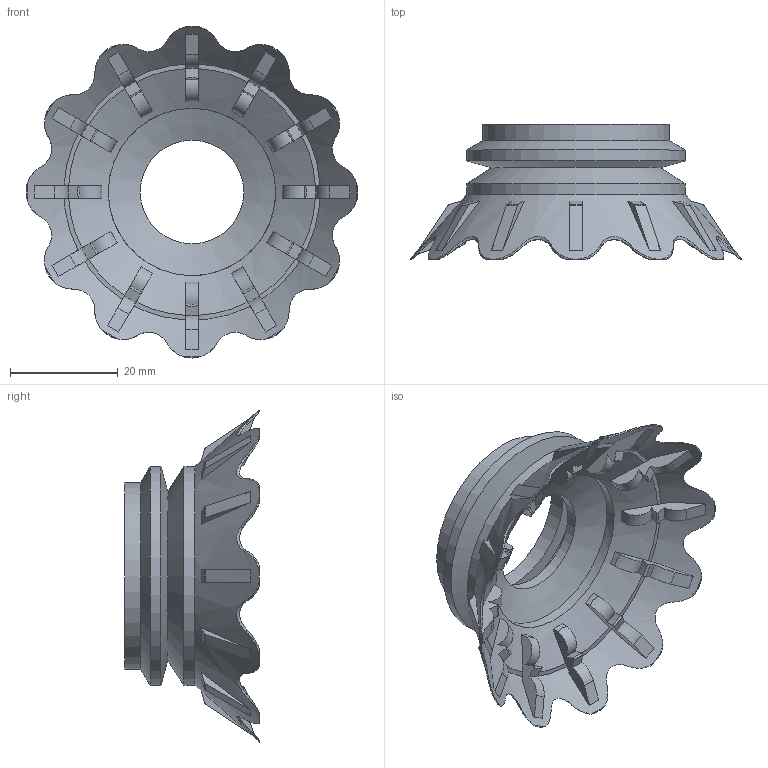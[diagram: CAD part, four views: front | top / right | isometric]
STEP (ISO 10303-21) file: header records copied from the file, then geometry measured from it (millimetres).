
FILE_DESCRIPTION (( 'STEP AP214' ), '1' );
FILE_NAME ('10F.060.002.02.STEP', '2024-06-11T15:17:38', ( '' ), ( '' ), 'SwSTEP 2.0', 'SolidWorks 2018', '' );
FILE_SCHEMA (( 'AUTOMOTIVE_DESIGN' ));
Length unit declared in the file: millimetre
Products named in the file (1): 10F.060.002.02
Bounding box: 61.5 x 25 x 61.5 mm (x, y, z)
Volume: 10646.1 mm3; surface area: 10596.6 mm2
Topology: 1 solids, 1 shells, 307 faces, 866 edges, 562 vertices
Faces by surface type: plane 112, cone 104, torus 48, cylinder 43
Full cylindrical faces by diameter (mm): 19.15 x1, 25.75 x1, 31 x2, 34.5 x1, 40.5 x2
Entity records: 12026 total; most frequent: CARTESIAN_POINT 4982, ORIENTED_EDGE 1690, DIRECTION 1130, EDGE_CURVE 845, VERTEX_POINT 557, B_SPLINE_CURVE_WITH_KNOTS 528, AXIS2_PLACEMENT_3D 505, EDGE_LOOP 350
